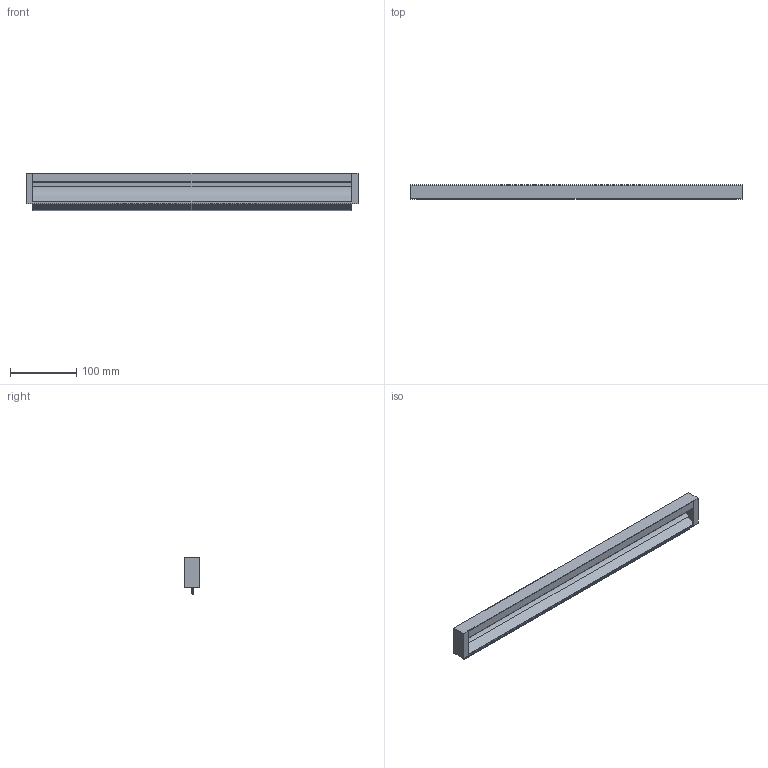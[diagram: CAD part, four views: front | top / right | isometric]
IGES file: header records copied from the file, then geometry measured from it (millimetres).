
Start section: Data from Parasolid IGES Translator 15.0.47, Copyright(c) 2006 Siemens P LM Software. All Rights Reserved.
Global section: file name: 115026.igs; native system:  By UGS Corp.; preprocessor: XPlus GENERIC/IGES 3.0; author: Noname; organization: Noname; date: 20140122.175500; units: millimetre
Bounding box: 500 x 21.1 x 56.5 mm (x, y, z)
Surface area: 110705.9 mm2 (no closed solid volume)
Topology: 0 solids, 0 shells, 67 faces, 376 edges, 376 vertices
Faces by surface type: extrusion 50, revolution 17
